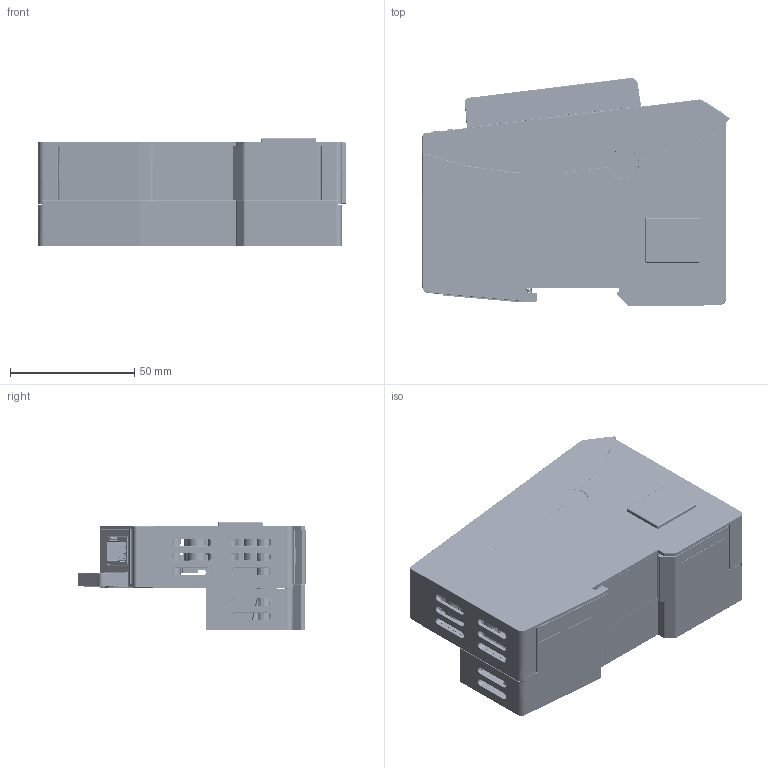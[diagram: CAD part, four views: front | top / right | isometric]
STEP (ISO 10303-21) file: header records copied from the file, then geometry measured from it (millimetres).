
FILE_DESCRIPTION(('CATIA V5 STEP Exchange','CAx-IF Rec.Pracs.--- Model Styling and Organization---1.2---2011-12-15'),'2;1');
FILE_NAME('C:\temp\KEB-IO_BK_16_16_28.stp','2017-02-28T13:43:29+00:00',('none'),('none'),'CATIA Version 5-6 Release 2014 SP4 HF33','CATIA V5 STEP AP214','none');
FILE_SCHEMA(('AUTOMOTIVE_DESIGN { 1 0 10303 214 1 1 1 1 }'));
Products named in the file (1): KEB-IO_BK_16_16_028
Bounding box: 123.57 x 91.89 x 43.3 mm (x, y, z)
Volume: 104471.9 mm3; surface area: 124625.3 mm2
Topology: 3 solids, 5 shells, 12250 faces, 33795 edges, 21846 vertices
Faces by surface type: plane 9225, cylinder 2307, torus 347, cone 148, sphere 110, bspline 109, revolution 4
Entity records: 415571 total; most frequent: CARTESIAN_POINT 113083, ORIENTED_EDGE 67370, DIRECTION 52806, EDGE_CURVE 33685, VECTOR 26650, LINE 26650, VERTEX_POINT 21846, AXIS2_PLACEMENT_3D 15249
